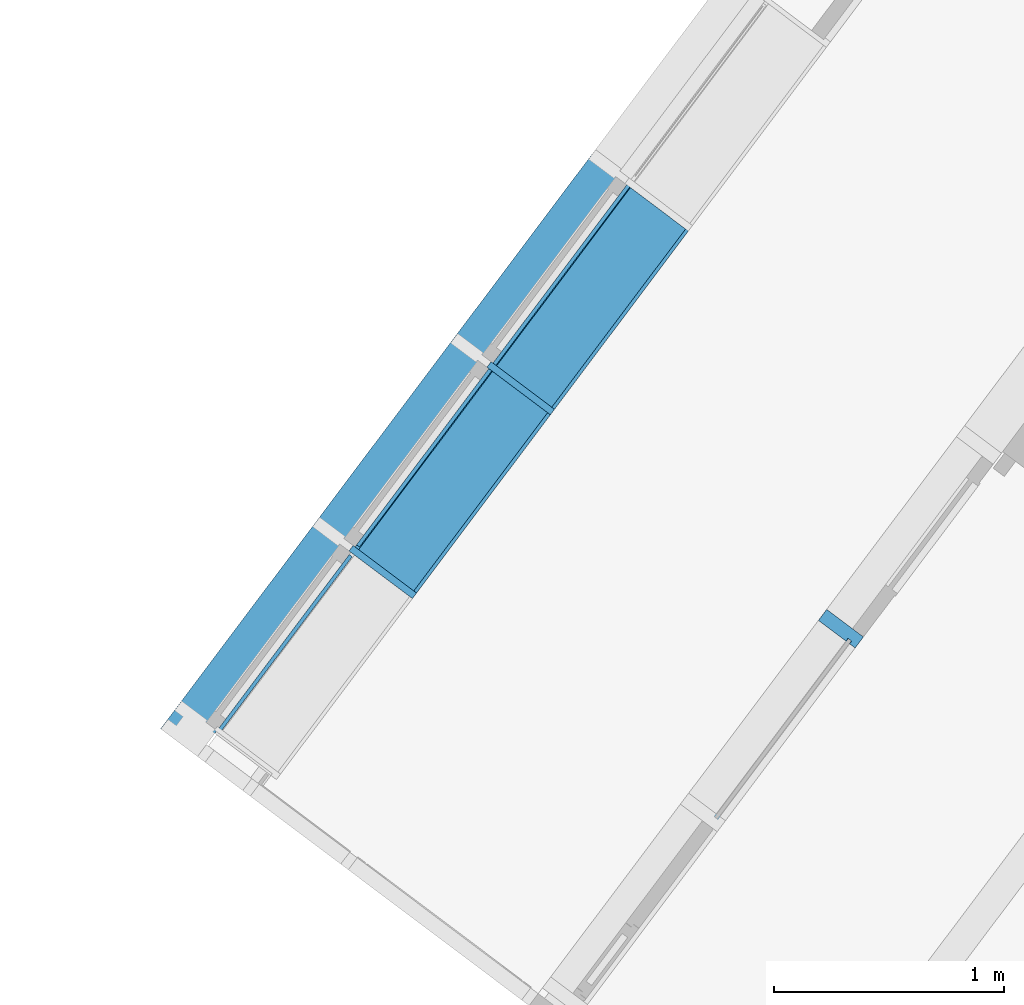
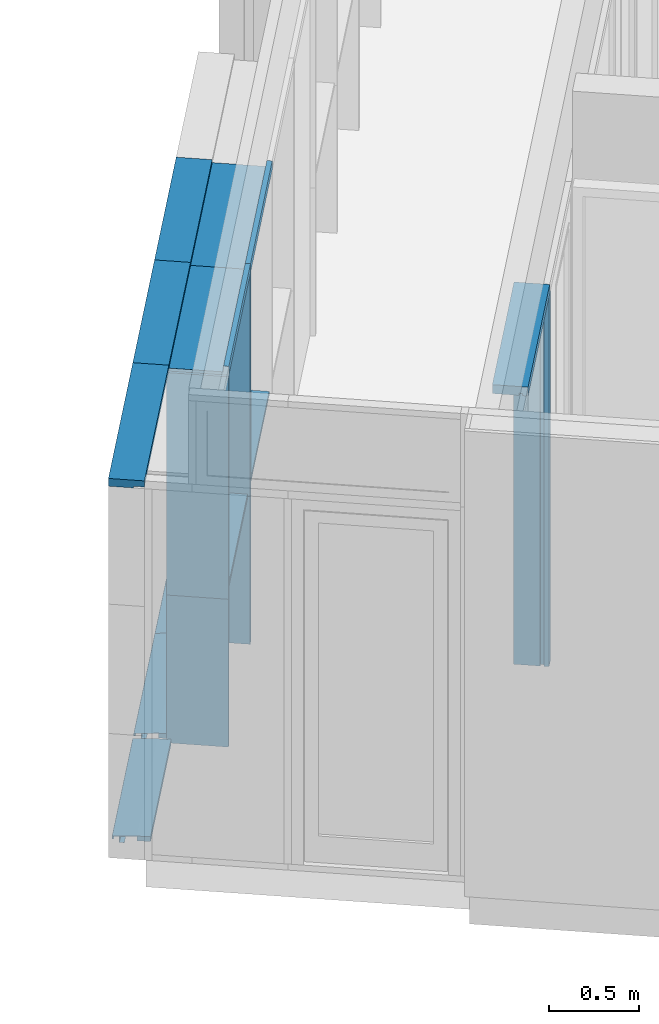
# One storey, part 34 of 243: 16 members, 3 elements without a shape of their own.
"""IFC2X3 building model written with IfcOpenShell, lengths in metres."""

from ifc_helpers import new_model, entity, si_unit, converted_unit, derived_unit, direction, frame, frame_2d, origin, place, context, subcontext, project, spatial, polyline, circle_curve, parameter, trimmed, segment, composite_curve, rectangle, outline, extrude, source, transform, mapped, material, type_object, type_shapes, element, aggregate, save


model = new_model("IFC2X3")

# Units and contexts
model_context = context("Model", 3, precision=1e-05, world=origin(), true_north=direction((6.123031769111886e-17, 1.0)))
body_context = subcontext(model_context, "Body", "Model", "MODEL_VIEW")
ifc_project = project(units=[si_unit("LENGTHUNIT", "METRE"), si_unit("AREAUNIT", "SQUARE_METRE"), si_unit("VOLUMEUNIT", "CUBIC_METRE"), converted_unit("PLANEANGLEUNIT", "DEGREE", entity("IfcRatioMeasure", 0.017453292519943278), si_unit("PLANEANGLEUNIT", "RADIAN"), dimensions=[0, 0, 0, 0, 0, 0, 0]), si_unit("MASSUNIT", "GRAM", prefix="KILO"), derived_unit("MASSDENSITYUNIT", [(si_unit("MASSUNIT", "GRAM", prefix="KILO"), 1), (si_unit("LENGTHUNIT", "METRE"), -3)]), derived_unit("IONCONCENTRATIONUNIT", [(si_unit("MASSUNIT", "GRAM", prefix="KILO"), 1), (si_unit("LENGTHUNIT", "METRE"), -3)]), derived_unit("MOMENTOFINERTIAUNIT", [(si_unit("LENGTHUNIT", "METRE"), 4)]), si_unit("TIMEUNIT", "SECOND"), si_unit("FREQUENCYUNIT", "HERTZ"), si_unit("THERMODYNAMICTEMPERATUREUNIT", "DEGREE_CELSIUS"), derived_unit("THERMALTRANSMITTANCEUNIT", [(si_unit("MASSUNIT", "GRAM", prefix="KILO"), 1), (si_unit("THERMODYNAMICTEMPERATUREUNIT", "KELVIN"), -1), (si_unit("TIMEUNIT", "SECOND"), -3)]), derived_unit("THERMALCONDUCTANCEUNIT", [(si_unit("MASSUNIT", "GRAM", prefix="KILO"), 1), (si_unit("THERMODYNAMICTEMPERATUREUNIT", "KELVIN"), -1), (si_unit("TIMEUNIT", "SECOND"), -3), (si_unit("LENGTHUNIT", "METRE"), 1)]), derived_unit("VOLUMETRICFLOWRATEUNIT", [(si_unit("LENGTHUNIT", "METRE"), 3), (si_unit("TIMEUNIT", "SECOND"), -1)]), derived_unit("MASSFLOWRATEUNIT", [(si_unit("MASSUNIT", "GRAM", prefix="KILO"), 1), (si_unit("TIMEUNIT", "SECOND"), -1)]), derived_unit("ROTATIONALFREQUENCYUNIT", [(si_unit("TIMEUNIT", "SECOND"), -1)]), si_unit("ELECTRICCURRENTUNIT", "AMPERE"), si_unit("ELECTRICVOLTAGEUNIT", "VOLT"), si_unit("POWERUNIT", "WATT"), si_unit("FORCEUNIT", "NEWTON", prefix="KILO"), si_unit("ILLUMINANCEUNIT", "LUX"), si_unit("LUMINOUSFLUXUNIT", "LUMEN"), si_unit("LUMINOUSINTENSITYUNIT", "CANDELA"), derived_unit("USERDEFINED", [(si_unit("MASSUNIT", "GRAM", prefix="KILO"), -1), (si_unit("LENGTHUNIT", "METRE"), -2), (si_unit("TIMEUNIT", "SECOND"), 3), (si_unit("LUMINOUSFLUXUNIT", "LUMEN"), 1)]), derived_unit("USERDEFINED", [(si_unit("MASSUNIT", "GRAM", prefix="KILO"), 1), (si_unit("TIMEUNIT", "SECOND"), -3), (si_unit("LENGTHUNIT", "METRE"), 3), (si_unit("ELECTRICCURRENTUNIT", "AMPERE"), -2)]), derived_unit("SOUNDPOWERUNIT", [(si_unit("MASSUNIT", "GRAM", prefix="KILO"), 1), (si_unit("TIMEUNIT", "SECOND"), -3), (si_unit("LENGTHUNIT", "METRE"), 2)]), derived_unit("SOUNDPRESSUREUNIT", [(si_unit("MASSUNIT", "GRAM", prefix="KILO"), 1), (si_unit("LENGTHUNIT", "METRE"), -1), (si_unit("TIMEUNIT", "SECOND"), -2)]), derived_unit("LINEARVELOCITYUNIT", [(si_unit("LENGTHUNIT", "METRE"), 1), (si_unit("TIMEUNIT", "SECOND"), -1)]), si_unit("PRESSUREUNIT", "PASCAL"), derived_unit("USERDEFINED", [(si_unit("MASSUNIT", "GRAM", prefix="KILO"), 1), (si_unit("LENGTHUNIT", "METRE"), -2), (si_unit("TIMEUNIT", "SECOND"), -2)]), derived_unit("LINEARFORCEUNIT", [(si_unit("MASSUNIT", "GRAM", prefix="KILO"), 1), (si_unit("TIMEUNIT", "SECOND"), -2)]), derived_unit("PLANARFORCEUNIT", [(si_unit("MASSUNIT", "GRAM", prefix="KILO"), 1), (si_unit("LENGTHUNIT", "METRE"), -1), (si_unit("TIMEUNIT", "SECOND"), -2)]), derived_unit("SPECIFICHEATCAPACITYUNIT", [(si_unit("THERMODYNAMICTEMPERATUREUNIT", "KELVIN"), -1), (si_unit("LENGTHUNIT", "METRE"), 2), (si_unit("TIMEUNIT", "SECOND"), -2)]), derived_unit("HEATINGVALUEUNIT", [(si_unit("LENGTHUNIT", "METRE"), 2), (si_unit("TIMEUNIT", "SECOND"), -2)]), derived_unit("VAPORPERMEABILITYUNIT", [(si_unit("LENGTHUNIT", "METRE"), -1), (si_unit("TIMEUNIT", "SECOND"), 1)]), derived_unit("DYNAMICVISCOSITYUNIT", [(si_unit("MASSUNIT", "GRAM", prefix="KILO"), 1), (si_unit("TIMEUNIT", "SECOND"), -1), (si_unit("LENGTHUNIT", "METRE"), -1)]), derived_unit("THERMALEXPANSIONCOEFFICIENTUNIT", [(si_unit("THERMODYNAMICTEMPERATUREUNIT", "KELVIN"), -1)]), derived_unit("MODULUSOFELASTICITYUNIT", [(si_unit("MASSUNIT", "GRAM", prefix="KILO"), 1), (si_unit("LENGTHUNIT", "METRE"), -1), (si_unit("TIMEUNIT", "SECOND"), -2)]), derived_unit("ISOTHERMALMOISTURECAPACITYUNIT", [(si_unit("LENGTHUNIT", "METRE"), 3), (si_unit("MASSUNIT", "GRAM", prefix="KILO"), -1)]), derived_unit("MOISTUREDIFFUSIVITYUNIT", [(si_unit("TIMEUNIT", "SECOND"), -1), (si_unit("LENGTHUNIT", "METRE"), 2)])], contexts=[model_context])

# Site, building, storey
site_placement = place(None, frame((0.0, 0.0, 235.0), z_axis=(0.0, 0.0, 1.0), x_axis=(-0.7996477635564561, 0.6004693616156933, 0.0)))
site = spatial("IfcSite", under=ifc_project, at=site_placement, Name="Default", CompositionType="ELEMENT")
building_placement = place(site_placement, origin())
building = spatial("IfcBuilding", under=site, at=building_placement, CompositionType="ELEMENT")
storey_placement = place(building_placement, origin())
storey = spatial("IfcBuildingStorey", under=building, at=storey_placement, Name="P0- Escola", CompositionType="ELEMENT", Elevation=0.0)

# Curtain wall, members
curtain_wall_type_1 = type_object("IfcCurtainWallType", Name="Muro cortina:MC- INT- a1", PredefinedType="NOTDEFINED")
curtain_wall_1_placement = place(storey_placement, origin())
curtain_wall_1 = element("IfcCurtainWall", 1, at=curtain_wall_1_placement, inside=storey, type_object=curtain_wall_type_1, Name="Muro cortina:MC- INT- a1", ObjectType="Muro cortina:MC- INT- a1")
ifc_material_1 = material(Name="_Fusta massisa- T1")
member_type_1 = type_object("IfcMemberType", Name="Montante rectangular:MC- Fusta- 20x6 cm- Esquerra", PredefinedType="MULLION", material=ifc_material_1)
shared_shape_1 = source(origin(), body_context, "Body", "SweptSolid", [
    extrude(outline(polyline([(-0.07000000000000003, -0.01875000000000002), (-0.04000000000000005, -0.01875000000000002), (-0.04000000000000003, -0.0037500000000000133), (-0.020000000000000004, -0.0037500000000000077), (-0.02, -0.018750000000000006), (0.13, -0.018749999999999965), (0.12999999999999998, 0.04125000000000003), (-0.06999999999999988, 0.04124999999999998), (-0.07000000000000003, -0.01875000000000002)])), frame((-0.01124999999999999, -0.03, -2.5050000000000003), z_axis=(0.0, 0.0, 1.0), x_axis=(0.0, -1.0, 0.0)), (0.0, 0.0, 1.0), 2.5050000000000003),
])
type_shapes(member_type_1, [shared_shape_1])
member_1_placement = place(curtain_wall_1_placement, frame((60.020147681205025, -22.41518997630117, 0.0), z_axis=(0.0, 0.0, -1.0), x_axis=(0.0, -1.0, 0.0)))
member_1 = element("IfcMember", 2, at=member_1_placement, type_object=member_type_1, material=ifc_material_1, Name="Montante rectangular:MC- Fusta- 20x6 cm- Esquerra", ObjectType="Montante rectangular:MC- Fusta- 20x6 cm- Esquerra", context=body_context, shape_type="MappedRepresentation", body=[
    mapped(shared_shape_1, transform((0.0, 0.0, 0.0), scale=1.0)),
])
member_type_2 = type_object("IfcMemberType", Name="Montante rectangular:MC- Fusta- 20x6 cm- Esquerra", PredefinedType="MULLION", material=ifc_material_1)
shared_shape_2 = source(origin(), body_context, "Body", "SweptSolid", [
    extrude(outline(polyline([(-0.07000000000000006, -0.01875000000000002), (-0.04000000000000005, -0.01875000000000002), (-0.04000000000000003, -0.0037500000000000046), (-0.02, -0.0037500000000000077), (-0.019999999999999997, -0.018750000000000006), (0.13, -0.018749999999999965), (0.12999999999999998, 0.04125000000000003), (-0.06999999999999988, 0.04124999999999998), (-0.07000000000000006, -0.01875000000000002)])), frame((-0.041249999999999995, -0.029999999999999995, -1.0), z_axis=(0.0, 0.0, 1.0), x_axis=(0.0, -1.0, 0.0)), (0.0, 0.0, 1.0), 0.9999999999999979),
])
type_shapes(member_type_2, [shared_shape_2])
member_2_placement = place(curtain_wall_1_placement, frame((60.020147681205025, -22.41518997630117, 2.565), z_axis=(0.0, -1.0, 0.0), x_axis=(0.0, 0.0, 1.0)))
member_2 = element("IfcMember", 3, at=member_2_placement, type_object=member_type_2, material=ifc_material_1, Name="Montante rectangular:MC- Fusta- 20x6 cm- Esquerra", ObjectType="Montante rectangular:MC- Fusta- 20x6 cm- Esquerra", context=body_context, shape_type="MappedRepresentation", body=[
    mapped(shared_shape_2, transform((0.0, 0.0, 0.0), scale=1.0)),
])
aggregate(curtain_wall_1, [member_2, member_1])

curtain_wall_type_2 = type_object("IfcCurtainWallType", Name="Muro cortina:MC- INT- k2", PredefinedType="NOTDEFINED")
curtain_wall_2_placement = place(storey_placement, origin())
curtain_wall_2 = element("IfcCurtainWall", 4, at=curtain_wall_2_placement, inside=storey, type_object=curtain_wall_type_2, Name="Muro cortina:MC- INT- k2", ObjectType="Muro cortina:MC- INT- k2")
member_type_3 = type_object("IfcMemberType", Name="Montante rectangular:MC- Fusta- 35x3 cm- Centre", PredefinedType="MULLION", material=ifc_material_1)
shared_shape_3 = source(origin(), body_context, "Body", "SweptSolid", [
    extrude(rectangle(XDim=0.3450000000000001, YDim=0.030000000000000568, at=frame_2d((0.0, -1.3964523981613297e-16), x_axis=(1.0, 0.0))), frame((0.0, -0.07750000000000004, -1.0), z_axis=(0.0, 0.0, 1.0), x_axis=(0.0, -1.0, 0.0)), (0.0, 0.0, 1.0), 1.0),
])
type_shapes(member_type_3, [shared_shape_3])
member_3_placement = place(curtain_wall_2_placement, frame((61.745147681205, -21.415191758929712, 0.0), z_axis=(0.0, 0.0, -1.0), x_axis=(0.0, -1.0, 0.0)))
member_3 = element("IfcMember", 5, at=member_3_placement, type_object=member_type_3, material=ifc_material_1, Name="Montante rectangular:MC- Fusta- 35x3 cm- Centre", ObjectType="Montante rectangular:MC- Fusta- 35x3 cm- Centre", context=body_context, shape_type="MappedRepresentation", body=[
    mapped(shared_shape_3, transform((0.0, 0.0, 0.0), scale=1.0)),
])
member_4_placement = place(curtain_wall_2_placement, frame((61.745147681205, -22.41519175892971, 0.0), z_axis=(0.0, 0.0, -1.0), x_axis=(0.0, -1.0, 0.0)))
member_4 = element("IfcMember", 6, at=member_4_placement, type_object=member_type_3, material=ifc_material_1, Name="Montante rectangular:MC- Fusta- 35x3 cm- Centre", ObjectType="Montante rectangular:MC- Fusta- 35x3 cm- Centre", context=body_context, shape_type="MappedRepresentation", body=[
    mapped(shared_shape_3, transform((0.0, 0.0, 0.0), scale=1.0)),
])
member_type_4 = type_object("IfcMemberType", Name="Montante rectangular:MC- Fusta- 35x3 cm- Pati aules- Remat superior", PredefinedType="MULLION", material=ifc_material_1)
shared_shape_4 = source(origin(), body_context, "Body", "SweptSolid", [
    extrude(outline(polyline([(-0.12166666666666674, -0.02666666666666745), (0.21333333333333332, -0.02666666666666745), (0.2133333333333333, -0.006666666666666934), (-0.09166666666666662, -0.006666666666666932), (-0.09166666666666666, 0.03333333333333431), (-0.12166666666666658, 0.03333333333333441), (-0.12166666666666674, -0.02666666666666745)])), frame((-0.033333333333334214, -0.026666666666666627, -1.0), z_axis=(0.0, 0.0, 1.0), x_axis=(0.0, -1.0, 0.0)), (0.0, 0.0, 1.0), 0.9999999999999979),
])
type_shapes(member_type_4, [shared_shape_4])
member_5_placement = place(curtain_wall_2_placement, frame((61.745147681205, -22.41519175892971, 2.565), z_axis=(0.0, -1.0, 0.0), x_axis=(0.0, 0.0, 1.0)))
member_5 = element("IfcMember", 7, at=member_5_placement, type_object=member_type_4, material=ifc_material_1, Name="Montante rectangular:MC- Fusta- 35x3 cm- Pati aules- Remat superior", ObjectType="Montante rectangular:MC- Fusta- 35x3 cm- Pati aules- Remat superior", context=body_context, shape_type="MappedRepresentation", body=[
    mapped(shared_shape_4, transform((0.0, 0.0, 0.0), scale=1.0)),
])
member_6_placement = place(curtain_wall_2_placement, frame((61.745147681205, -23.41519175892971, 2.565), z_axis=(0.0, -1.0, 0.0), x_axis=(0.0, 0.0, 1.0)))
member_6 = element("IfcMember", 8, at=member_6_placement, type_object=member_type_4, material=ifc_material_1, Name="Montante rectangular:MC- Fusta- 35x3 cm- Pati aules- Remat superior", ObjectType="Montante rectangular:MC- Fusta- 35x3 cm- Pati aules- Remat superior", context=body_context, shape_type="MappedRepresentation", body=[
    mapped(shared_shape_4, transform((0.0, 0.0, 0.0), scale=1.0)),
])
member_type_5 = type_object("IfcMemberType", Name="Montante rectangular:MC- Fusta- 35x3 cm- Pati aules- Prestatge", PredefinedType="MULLION", material=ifc_material_1)
shared_shape_5 = source(origin(), body_context, "Body", "SweptSolid", [
    extrude(rectangle(XDim=0.30000000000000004, YDim=0.03000000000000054, at=frame_2d((0.0, -1.231653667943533e-16), x_axis=(1.0, 0.0))), frame((0.0, -0.07000000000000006, -0.9699999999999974), z_axis=(0.0, 0.0, 1.0), x_axis=(0.0, -1.0, 0.0)), (0.0, 0.0, 1.0), 0.969999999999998),
])
type_shapes(member_type_5, [shared_shape_5])
member_7_placement = place(curtain_wall_2_placement, frame((61.745147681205, -22.400191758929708, 1.0), z_axis=(0.0, -1.0, 0.0), x_axis=(0.0, 0.0, 1.0)))
member_7 = element("IfcMember", 9, at=member_7_placement, type_object=member_type_5, material=ifc_material_1, Name="Montante rectangular:MC- Fusta- 35x3 cm- Pati aules- Prestatge", ObjectType="Montante rectangular:MC- Fusta- 35x3 cm- Pati aules- Prestatge", context=body_context, shape_type="MappedRepresentation", body=[
    mapped(shared_shape_5, transform((0.0, 0.0, 0.0), scale=1.0)),
])
member_8_placement = place(curtain_wall_2_placement, frame((61.745147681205, -23.400191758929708, 1.0), z_axis=(0.0, -1.0, 0.0), x_axis=(0.0, 0.0, 1.0)))
member_8 = element("IfcMember", 10, at=member_8_placement, type_object=member_type_5, material=ifc_material_1, Name="Montante rectangular:MC- Fusta- 35x3 cm- Pati aules- Prestatge", ObjectType="Montante rectangular:MC- Fusta- 35x3 cm- Pati aules- Prestatge", context=body_context, shape_type="MappedRepresentation", body=[
    mapped(shared_shape_5, transform((0.0, 0.0, 0.0), scale=1.0)),
])
member_type_6 = type_object("IfcMemberType", Name="Montante rectangular:MC- Fusta- 35x3 cm- Centre", PredefinedType="MULLION", material=ifc_material_1)
shared_shape_6 = source(origin(), body_context, "Body", "SweptSolid", [
    extrude(rectangle(XDim=0.3450000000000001, YDim=0.030000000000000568, at=frame_2d((0.0, -1.3964523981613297e-16), x_axis=(1.0, 0.0))), frame((0.0, -0.07750000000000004, -1.504999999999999), z_axis=(0.0, 0.0, 1.0), x_axis=(0.0, -1.0, 0.0)), (0.0, 0.0, 1.0), 1.504999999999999),
])
type_shapes(member_type_6, [shared_shape_6])
member_9_placement = place(curtain_wall_2_placement, frame((61.745147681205, -21.415191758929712, 1.0), z_axis=(0.0, 0.0, -1.0), x_axis=(0.0, -1.0, 0.0)))
member_9 = element("IfcMember", 11, at=member_9_placement, type_object=member_type_6, material=ifc_material_1, Name="Montante rectangular:MC- Fusta- 35x3 cm- Centre", ObjectType="Montante rectangular:MC- Fusta- 35x3 cm- Centre", context=body_context, shape_type="MappedRepresentation", body=[
    mapped(shared_shape_6, transform((0.0, 0.0, 0.0), scale=1.0)),
])
member_10_placement = place(curtain_wall_2_placement, frame((61.745147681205, -22.41519175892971, 1.0), z_axis=(0.0, 0.0, -1.0), x_axis=(0.0, -1.0, 0.0)))
member_10 = element("IfcMember", 12, at=member_10_placement, type_object=member_type_6, material=ifc_material_1, Name="Montante rectangular:MC- Fusta- 35x3 cm- Centre", ObjectType="Montante rectangular:MC- Fusta- 35x3 cm- Centre", context=body_context, shape_type="MappedRepresentation", body=[
    mapped(shared_shape_6, transform((0.0, 0.0, 0.0), scale=1.0)),
])
aggregate(curtain_wall_2, [member_3, member_5, member_4, member_6, member_7, member_8, member_9, member_10])

curtain_wall_type_3 = type_object("IfcCurtainWallType", Name="Muro cortina:MC- EXT- MC5", PredefinedType="NOTDEFINED")
curtain_wall_3_placement = place(storey_placement, origin())
curtain_wall_3 = element("IfcCurtainWall", 13, at=curtain_wall_3_placement, inside=storey, type_object=curtain_wall_type_3, Name="Muro cortina:MC- EXT- MC5", ObjectType="Muro cortina:MC- EXT- MC5")
ifc_material_2 = material(Name="_Alumini- T1- Perfil")
member_type_7 = type_object("IfcMemberType", Name="Montante rectangular:MC- Alu- 140x52,5 cm- Fa patis- inferior", PredefinedType="MULLION", material=ifc_material_2)
shared_shape_7 = source(origin(), body_context, "Body", "SweptSolid", [
    extrude(outline(composite_curve([segment(polyline([(-0.144167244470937, -0.02586710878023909), (-0.12786724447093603, -0.025867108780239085)]), True, "CONTINUOUS"), segment(polyline([(-0.12786724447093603, -0.025867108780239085), (-0.12786724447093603, -0.02316710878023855)]), True, "CONTINUOUS"), segment(polyline([(-0.12786724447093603, -0.02316710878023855), (-0.0678672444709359, -0.02316710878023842)]), True, "CONTINUOUS"), segment(polyline([(-0.0678672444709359, -0.02316710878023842), (0.07031215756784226, -0.010722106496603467)]), True, "CONTINUOUS"), segment(trimmed(circle_curve(frame_2d((0.07013275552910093, -0.008730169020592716), x_axis=(0.0897010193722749, -0.9959687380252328)), 0.0019999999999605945), [parameter(0.0)], [parameter(84.8535928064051)], True, "PARAMETER"), True, "CONTINUOUS"), segment(polyline([(0.07213275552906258, -0.00873016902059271), (0.07213275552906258, 0.0062663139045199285)]), True, "CONTINUOUS"), segment(trimmed(circle_curve(frame_2d((0.070132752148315, 0.006266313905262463), x_axis=(1.0, 0.0)), 0.002000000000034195), [parameter(0.0)], [parameter(90.00000002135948)], True, "PARAMETER"), True, "CONTINUOUS"), segment(polyline([(0.070132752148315, 0.00826631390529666), (0.06213275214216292, 0.008266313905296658)]), True, "CONTINUOUS"), segment(polyline([(0.06213275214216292, 0.008266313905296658), (0.06213275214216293, 0.006266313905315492)]), True, "CONTINUOUS"), segment(polyline([(0.06213275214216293, 0.006266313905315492), (0.06963275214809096, 0.006266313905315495)]), True, "CONTINUOUS"), segment(trimmed(circle_curve(frame_2d((0.06963275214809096, 0.005766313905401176), x_axis=(0.0, 1.0)), 0.0004999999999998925), [parameter(269.99999999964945)], [parameter(0.0)], True, "PARAMETER"), False, "CONTINUOUS"), segment(polyline([(0.07013275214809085, 0.0057663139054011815), (0.07013275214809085, -0.008730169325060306)]), True, "CONTINUOUS"), segment(polyline([(0.07013275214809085, -0.008730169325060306), (0.03213275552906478, -0.012152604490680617)]), True, "CONTINUOUS"), segment(polyline([(0.03213275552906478, -0.012152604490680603), (0.03213275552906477, 0.02913289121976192)]), True, "CONTINUOUS"), segment(polyline([(0.03213275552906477, 0.02913289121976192), (0.0021327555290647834, 0.02913289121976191)]), True, "CONTINUOUS"), segment(polyline([(0.0021327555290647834, 0.02913289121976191), (0.0021327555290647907, 0.027132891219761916)]), True, "CONTINUOUS"), segment(polyline([(0.0021327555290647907, 0.027132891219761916), (0.03013275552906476, 0.027132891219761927)]), True, "CONTINUOUS"), segment(polyline([(0.03013275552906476, 0.02713289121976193), (0.03013275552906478, -0.012332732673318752)]), True, "CONTINUOUS"), segment(polyline([(0.03013275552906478, -0.012332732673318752), (-0.06786724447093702, -0.021159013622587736)]), True, "CONTINUOUS"), segment(polyline([(-0.06786724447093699, -0.021159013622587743), (-0.067867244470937, 0.0091328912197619)]), True, "CONTINUOUS"), segment(polyline([(-0.06786724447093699, 0.0091328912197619), (-0.14416724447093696, 0.009132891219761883)]), True, "CONTINUOUS"), segment(polyline([(-0.14416724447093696, 0.009132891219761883), (-0.144167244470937, -0.02586710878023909)]), True, "CONTINUOUS")], self_intersect=False)), frame((-0.029132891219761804, -0.06786724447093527, -0.9474999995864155), z_axis=(0.0, 0.0, 1.0), x_axis=(0.0, -1.0, 0.0)), (0.0, 0.0, 1.0), 0.9474999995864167),
])
type_shapes(member_type_7, [shared_shape_7])
member_11_placement = place(curtain_wall_3_placement, frame((62.045147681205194, -20.441441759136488, -0.02), z_axis=(0.0, 1.0, 0.0), x_axis=(0.0, 0.0, -1.0)))
member_11 = element("IfcMember", 14, at=member_11_placement, type_object=member_type_7, material=ifc_material_2, Name="Montante rectangular:MC- Alu- 140x52,5 cm- Fa patis- inferior", ObjectType="Montante rectangular:MC- Alu- 140x52,5 cm- Fa patis- inferior", context=body_context, shape_type="MappedRepresentation", body=[
    mapped(shared_shape_7, transform((0.0, 0.0, 0.0), scale=1.0)),
])
member_type_8 = type_object("IfcMemberType", Name="Montante rectangular:MC- Alu- 140x52,5 cm- Fa patis- Superior", PredefinedType="MULLION", material=ifc_material_2)
shared_shape_8 = source(origin(), body_context, "Body", "SweptSolid", [
    extrude(outline(polyline([(-0.026333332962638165, -0.021249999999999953), (0.11366666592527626, -0.021249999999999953), (0.11366666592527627, 0.031250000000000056), (-0.08733333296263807, 0.03125000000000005), (-0.0873333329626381, -0.010000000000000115), (-0.026333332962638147, -0.010000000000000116), (-0.026333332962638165, -0.021249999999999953)])), frame((-0.031250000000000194, -0.02733333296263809, -1.1262500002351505), z_axis=(0.0, 0.0, 1.0), x_axis=(0.0, -1.0, 0.0)), (0.0, 0.0, 1.0), 1.1262500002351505),
])
type_shapes(member_type_8, [shared_shape_8])
member_12_placement = place(curtain_wall_3_placement, frame((62.045147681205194, -21.415191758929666, 2.545), z_axis=(0.0, -1.0, 0.0), x_axis=(0.0, 0.0, 1.0)))
member_12 = element("IfcMember", 15, at=member_12_placement, type_object=member_type_8, material=ifc_material_2, Name="Montante rectangular:MC- Alu- 140x52,5 cm- Fa patis- Superior", ObjectType="Montante rectangular:MC- Alu- 140x52,5 cm- Fa patis- Superior", context=body_context, shape_type="MappedRepresentation", body=[
    mapped(shared_shape_8, transform((0.0, 0.0, 0.0), scale=1.0)),
])
member_type_9 = type_object("IfcMemberType", Name="Montante rectangular:MC- Alu- 140x52,5 cm- Fa patis- inferior", PredefinedType="MULLION", material=ifc_material_2)
shared_shape_9 = source(origin(), body_context, "Body", "SweptSolid", [
    extrude(outline(composite_curve([segment(polyline([(-0.144167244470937, -0.025867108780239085), (-0.12786724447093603, -0.02586710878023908)]), True, "CONTINUOUS"), segment(polyline([(-0.12786724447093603, -0.02586710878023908), (-0.12786724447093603, -0.023167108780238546)]), True, "CONTINUOUS"), segment(polyline([(-0.12786724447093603, -0.023167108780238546), (-0.0678672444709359, -0.023167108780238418)]), True, "CONTINUOUS"), segment(polyline([(-0.0678672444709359, -0.023167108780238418), (0.07031215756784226, -0.010722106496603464)]), True, "CONTINUOUS"), segment(trimmed(circle_curve(frame_2d((0.07013275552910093, -0.008730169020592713), x_axis=(0.0897010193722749, -0.9959687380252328)), 0.0019999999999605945), [parameter(0.0)], [parameter(84.8535928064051)], True, "PARAMETER"), True, "CONTINUOUS"), segment(polyline([(0.07213275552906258, -0.008730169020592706), (0.07213275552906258, 0.006266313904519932)]), True, "CONTINUOUS"), segment(trimmed(circle_curve(frame_2d((0.07013275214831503, 0.006266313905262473), x_axis=(1.0, 0.0)), 0.0020000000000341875), [parameter(0.0)], [parameter(90.00000002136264)], True, "PARAMETER"), True, "CONTINUOUS"), segment(polyline([(0.070132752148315, 0.008266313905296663), (0.06213275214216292, 0.008266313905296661)]), True, "CONTINUOUS"), segment(polyline([(0.06213275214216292, 0.008266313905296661), (0.06213275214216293, 0.006266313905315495)]), True, "CONTINUOUS"), segment(polyline([(0.06213275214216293, 0.006266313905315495), (0.06963275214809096, 0.006266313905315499)]), True, "CONTINUOUS"), segment(trimmed(circle_curve(frame_2d((0.06963275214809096, 0.005766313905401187), x_axis=(0.0, 1.0)), 0.0004999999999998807), [parameter(269.9999999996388)], [parameter(0.0)], True, "PARAMETER"), False, "CONTINUOUS"), segment(polyline([(0.07013275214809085, 0.005766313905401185), (0.07013275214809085, -0.008730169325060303)]), True, "CONTINUOUS"), segment(polyline([(0.07013275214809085, -0.008730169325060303), (0.03213275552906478, -0.012152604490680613)]), True, "CONTINUOUS"), segment(polyline([(0.03213275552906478, -0.0121526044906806), (0.03213275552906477, 0.029132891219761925)]), True, "CONTINUOUS"), segment(polyline([(0.03213275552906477, 0.029132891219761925), (0.0021327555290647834, 0.029132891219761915)]), True, "CONTINUOUS"), segment(polyline([(0.0021327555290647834, 0.029132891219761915), (0.0021327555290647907, 0.02713289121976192)]), True, "CONTINUOUS"), segment(polyline([(0.0021327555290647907, 0.02713289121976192), (0.03013275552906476, 0.02713289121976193)]), True, "CONTINUOUS"), segment(polyline([(0.03013275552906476, 0.027132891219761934), (0.03013275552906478, -0.012332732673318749)]), True, "CONTINUOUS"), segment(polyline([(0.03013275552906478, -0.012332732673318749), (-0.06786724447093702, -0.021159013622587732)]), True, "CONTINUOUS"), segment(polyline([(-0.06786724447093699, -0.02115901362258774), (-0.067867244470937, 0.009132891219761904)]), True, "CONTINUOUS"), segment(polyline([(-0.06786724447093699, 0.009132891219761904), (-0.14416724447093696, 0.009132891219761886)]), True, "CONTINUOUS"), segment(polyline([(-0.14416724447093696, 0.009132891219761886), (-0.144167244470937, -0.025867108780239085)]), True, "CONTINUOUS")], self_intersect=False)), frame((-0.029132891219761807, -0.06786724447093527, -0.9737499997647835), z_axis=(0.0, 0.0, 1.0), x_axis=(0.0, -1.0, 0.0)), (0.0, 0.0, 1.0), 0.9737499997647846),
])
type_shapes(member_type_9, [shared_shape_9])
member_13_placement = place(curtain_wall_3_placement, frame((62.045147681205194, -21.441441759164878, -0.02), z_axis=(0.0, 1.0, 0.0), x_axis=(0.0, 0.0, -1.0)))
member_13 = element("IfcMember", 16, at=member_13_placement, type_object=member_type_9, material=ifc_material_2, Name="Montante rectangular:MC- Alu- 140x52,5 cm- Fa patis- inferior", ObjectType="Montante rectangular:MC- Alu- 140x52,5 cm- Fa patis- inferior", context=body_context, shape_type="MappedRepresentation", body=[
    mapped(shared_shape_9, transform((0.0, 0.0, 0.0), scale=1.0)),
])
member_type_10 = type_object("IfcMemberType", Name="Montante rectangular:MC- Alu- 140x52,5 cm- Fa patis- Superior", PredefinedType="MULLION", material=ifc_material_2)
shared_shape_10 = source(origin(), body_context, "Body", "SweptSolid", [
    extrude(outline(polyline([(-0.026333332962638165, -0.021249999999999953), (0.11366666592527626, -0.021249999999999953), (0.11366666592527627, 0.031250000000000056), (-0.08733333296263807, 0.03125000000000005), (-0.0873333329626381, -0.010000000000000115), (-0.026333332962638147, -0.010000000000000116), (-0.026333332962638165, -0.021249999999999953)])), frame((-0.031250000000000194, -0.02733333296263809, -1.0), z_axis=(0.0, 0.0, 1.0), x_axis=(0.0, -1.0, 0.0)), (0.0, 0.0, 1.0), 1.0000000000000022),
])
type_shapes(member_type_10, [shared_shape_10])
member_14_placement = place(curtain_wall_3_placement, frame((62.045147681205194, -22.415191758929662, 2.545), z_axis=(0.0, -1.0, 0.0), x_axis=(0.0, 0.0, 1.0)))
member_14 = element("IfcMember", 17, at=member_14_placement, type_object=member_type_10, material=ifc_material_2, Name="Montante rectangular:MC- Alu- 140x52,5 cm- Fa patis- Superior", ObjectType="Montante rectangular:MC- Alu- 140x52,5 cm- Fa patis- Superior", context=body_context, shape_type="MappedRepresentation", body=[
    mapped(shared_shape_10, transform((0.0, 0.0, 0.0), scale=1.0)),
])
member_15_placement = place(curtain_wall_3_placement, frame((62.04514768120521, -23.41519175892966, 2.545), z_axis=(0.0, -1.0, 0.0), x_axis=(0.0, 0.0, 1.0)))
member_15 = element("IfcMember", 18, at=member_15_placement, type_object=member_type_10, material=ifc_material_2, Name="Montante rectangular:MC- Alu- 140x52,5 cm- Fa patis- Superior", ObjectType="Montante rectangular:MC- Alu- 140x52,5 cm- Fa patis- Superior", context=body_context, shape_type="MappedRepresentation", body=[
    mapped(shared_shape_10, transform((0.0, 0.0, 0.0), scale=1.0)),
])
member_type_11 = type_object("IfcMemberType", Name="Montante rectangular:MC- Alu- 140x52,5 cm- Fa patis- inferior", PredefinedType="MULLION", material=ifc_material_2)
shared_shape_11 = source(origin(), body_context, "Body", "SweptSolid", [
    extrude(outline(composite_curve([segment(polyline([(-0.144167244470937, -0.02586710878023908), (-0.12786724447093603, -0.025867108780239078)]), True, "CONTINUOUS"), segment(polyline([(-0.12786724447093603, -0.025867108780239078), (-0.12786724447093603, -0.023167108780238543)]), True, "CONTINUOUS"), segment(polyline([(-0.12786724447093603, -0.023167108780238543), (-0.0678672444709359, -0.023167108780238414)]), True, "CONTINUOUS"), segment(polyline([(-0.0678672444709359, -0.023167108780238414), (0.07031215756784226, -0.01072210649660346)]), True, "CONTINUOUS"), segment(trimmed(circle_curve(frame_2d((0.07013275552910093, -0.00873016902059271), x_axis=(0.0897010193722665, -0.9959687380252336)), 0.0019999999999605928), [parameter(0.0)], [parameter(84.85359280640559)], True, "PARAMETER"), True, "CONTINUOUS"), segment(polyline([(0.07213275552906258, -0.008730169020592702), (0.07213275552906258, 0.006266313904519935)]), True, "CONTINUOUS"), segment(trimmed(circle_curve(frame_2d((0.070132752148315, 0.0062663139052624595), x_axis=(1.0, 0.0)), 0.0020000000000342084), [parameter(0.0)], [parameter(90.00000002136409)], True, "PARAMETER"), True, "CONTINUOUS"), segment(polyline([(0.070132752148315, 0.008266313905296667), (0.06213275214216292, 0.008266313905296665)]), True, "CONTINUOUS"), segment(polyline([(0.06213275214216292, 0.008266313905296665), (0.06213275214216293, 0.006266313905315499)]), True, "CONTINUOUS"), segment(polyline([(0.06213275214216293, 0.006266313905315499), (0.06963275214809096, 0.006266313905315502)]), True, "CONTINUOUS"), segment(trimmed(circle_curve(frame_2d((0.06963275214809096, 0.005766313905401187), x_axis=(0.0, 1.0)), 0.000499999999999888), [parameter(269.9999999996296)], [parameter(0.0)], True, "PARAMETER"), False, "CONTINUOUS"), segment(polyline([(0.07013275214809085, 0.005766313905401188), (0.07013275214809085, -0.0087301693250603)]), True, "CONTINUOUS"), segment(polyline([(0.07013275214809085, -0.0087301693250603), (0.03213275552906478, -0.01215260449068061)]), True, "CONTINUOUS"), segment(polyline([(0.03213275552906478, -0.012152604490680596), (0.03213275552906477, 0.02913289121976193)]), True, "CONTINUOUS"), segment(polyline([(0.03213275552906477, 0.02913289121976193), (0.0021327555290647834, 0.029132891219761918)]), True, "CONTINUOUS"), segment(polyline([(0.0021327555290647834, 0.029132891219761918), (0.0021327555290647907, 0.027132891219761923)]), True, "CONTINUOUS"), segment(polyline([(0.0021327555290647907, 0.027132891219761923), (0.03013275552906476, 0.027132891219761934)]), True, "CONTINUOUS"), segment(polyline([(0.03013275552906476, 0.027132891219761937), (0.03013275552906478, -0.012332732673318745)]), True, "CONTINUOUS"), segment(polyline([(0.03013275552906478, -0.012332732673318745), (-0.06786724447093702, -0.02115901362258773)]), True, "CONTINUOUS"), segment(polyline([(-0.06786724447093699, -0.021159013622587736), (-0.067867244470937, 0.009132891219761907)]), True, "CONTINUOUS"), segment(polyline([(-0.06786724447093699, 0.009132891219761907), (-0.14416724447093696, 0.00913289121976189)]), True, "CONTINUOUS"), segment(polyline([(-0.14416724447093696, 0.00913289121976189), (-0.144167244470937, -0.02586710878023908)]), True, "CONTINUOUS")], self_intersect=False)), frame((-0.02913289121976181, -0.06786724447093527, -1.0), z_axis=(0.0, 0.0, 1.0), x_axis=(0.0, -1.0, 0.0)), (0.0, 0.0, 1.0), 0.9999999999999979),
])
type_shapes(member_type_11, [shared_shape_11])
member_16_placement = place(curtain_wall_3_placement, frame((62.045147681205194, -22.415191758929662, -0.02), z_axis=(0.0, 1.0, 0.0), x_axis=(0.0, 0.0, -1.0)))
member_16 = element("IfcMember", 19, at=member_16_placement, type_object=member_type_11, material=ifc_material_2, Name="Montante rectangular:MC- Alu- 140x52,5 cm- Fa patis- inferior", ObjectType="Montante rectangular:MC- Alu- 140x52,5 cm- Fa patis- inferior", context=body_context, shape_type="MappedRepresentation", body=[
    mapped(shared_shape_11, transform((0.0, 0.0, 0.0), scale=1.0)),
])
aggregate(curtain_wall_3, [member_11, member_12, member_13, member_14, member_16, member_15])

save(model, "model.ifc")
